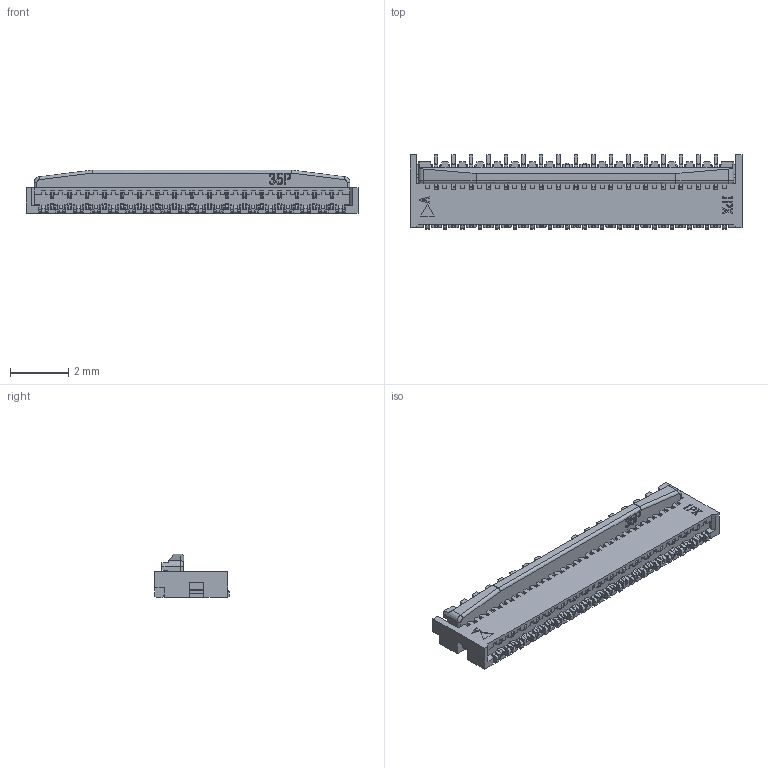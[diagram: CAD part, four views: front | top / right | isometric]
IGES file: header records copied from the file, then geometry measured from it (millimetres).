
Start section: SolidWorks IGES file using analytic representation for surfaces
Global section: file name: Q:\屄恖愱梡\SHIMADA\MFX3-BFN\3D-DATA\35倫\iges\20527-035ExxxC act open iges R2 OLYMPAS.IGS; native system: SolidWorks 2010; preprocessor: SolidWorks 2010; author: kaihatsu-3dcad-1; date: 110722.200349; units: millimetre
Bounding box: 11.4 x 2.55 x 1.5 mm (x, y, z)
Surface area: 145.5 mm2 (no closed solid volume)
Topology: 0 solids, 0 shells, 3070 faces, 19711 edges, 19709 vertices
Faces by surface type: bspline 2483, revolution 587
